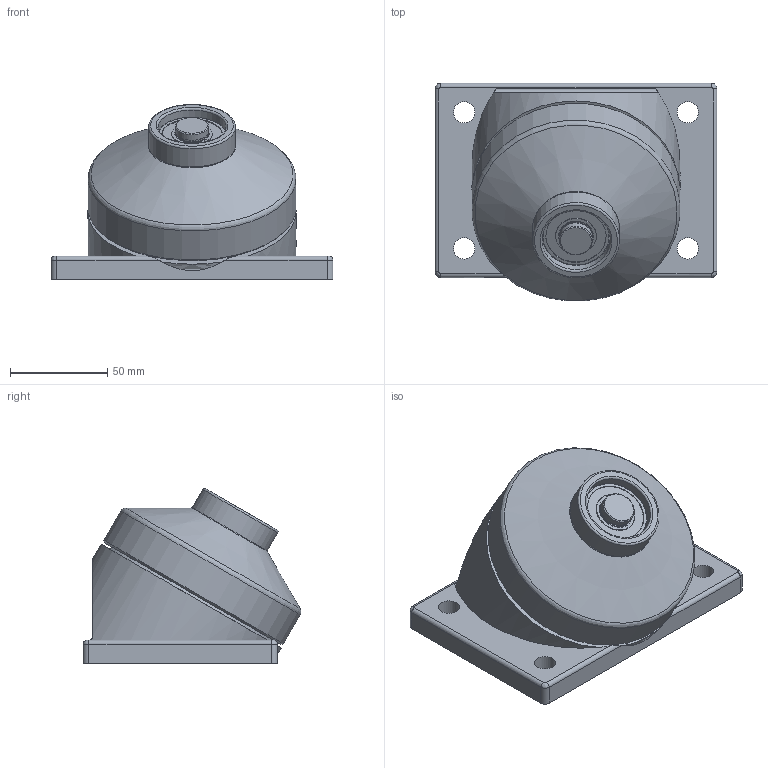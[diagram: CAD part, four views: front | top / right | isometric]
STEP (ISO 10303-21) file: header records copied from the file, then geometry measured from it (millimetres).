
FILE_DESCRIPTION(/* description */ (''),/* implementation_level */ '2;1');
FILE_NAME(/* name */ 'Z:\34-Tei\01-web 3Dデータ\SW車輪\SW-80-K.stp',/* time_stamp */ '2015-03-17T16:40:52+09:00',/* author */ ('yamaki'),/* organization */ (''),/* preprocessor_version */ 'ST-DEVELOPER v15.6',/* originating_system */ 'Autodesk Inventor 2015',/* authorisation */ '');
FILE_SCHEMA (('AUTOMOTIVE_DESIGN { 1 0 10303 214 3 1 1 }'));
Length unit declared in the file: centimetre
Products named in the file (1): SW-80-K
Bounding box: 145 x 112.02 x 89.99 mm (x, y, z)
Volume: 479023.1 mm3; surface area: 94307.9 mm2
Topology: 1 solids, 1 shells, 102 faces, 218 edges, 136 vertices
Faces by surface type: cylinder 42, plane 31, cone 16, torus 9, bspline 4
Full cylindrical faces by diameter (mm): 3.5 x1, 4.917 x1, 8 x1, 11 x4, 16.2 x1, 17 x3, 21 x2, 25 x1, 26 x1, 29 x1, 31 x2, 35 x1, 35.1 x1, 40 x1, 44.646 x1, 78.1 x1, 84 x1, 85 x1, 107 x1
Entity records: 2669 total; most frequent: CARTESIAN_POINT 535, DIRECTION 454, ORIENTED_EDGE 304, AXIS2_PLACEMENT_3D 213, EDGE_LOOP 183, EDGE_CURVE 152, VERTEX_POINT 121, CIRCLE 105
